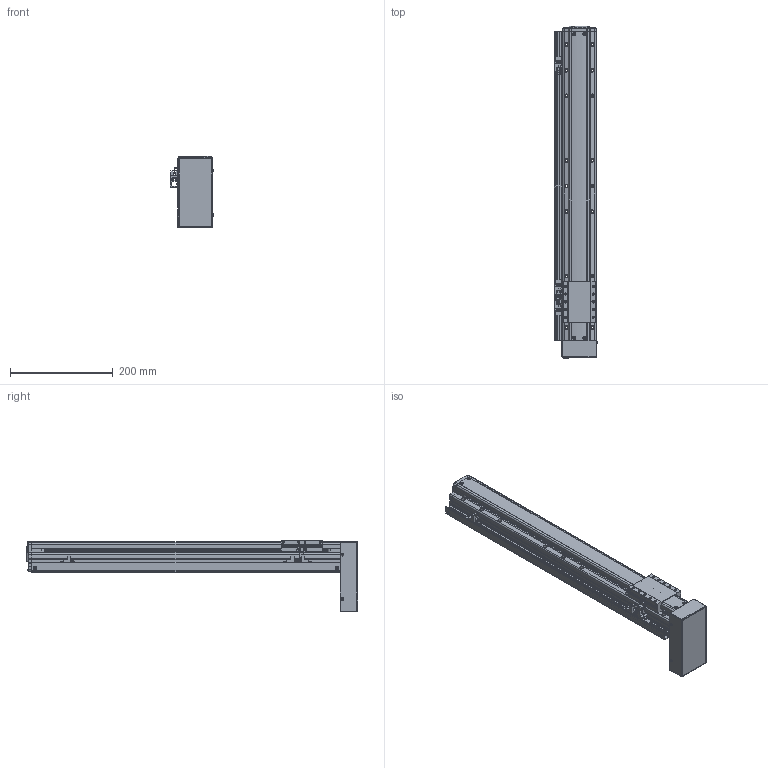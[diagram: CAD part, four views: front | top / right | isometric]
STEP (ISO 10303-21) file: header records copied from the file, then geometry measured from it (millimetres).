
FILE_DESCRIPTION(('STEP AP214'),'1');
FILE_NAME('Z:/Web/3D/PSA65/STP/PSA65-450 (3D)/PSA65ㅁㅁ-450PB+3SL.stp','2014-06-25T04:59:36',(' '),(' '),'Spatial InterOp 3D',' ',' ');
FILE_SCHEMA(('automotive_design'));
Length unit declared in the file: millimetre
Products named in the file (67): SLIDE; RRCV-PA060; 1; 2; 3; 4; 5; 6; 7; 8; 9; 10; 11; 12; 13; 14; 15; 16; 17; 18; 19; 20; 21; 22; 23; 24; 25; 26; 27; 28; 29; 30; 31; 스크루 : Round - M3.0 x 8.0; RN8 x 0.75; SHAFT-SAN65; BASE; 스크루 : Round - M3.0 x 6.0; BTCV-SAN65; M3.0 x 6.0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
Bounding box: 84.06 x 644.8 x 139 mm (x, y, z)
Volume: 2249514.6 mm3; surface area: 360958 mm2
Topology: 67 solids, 67 shells, 2248 faces, 5923 edges, 3808 vertices
Faces by surface type: plane 1391, cylinder 581, cone 191, sphere 50, bspline 19, torus 16
Entity records: 89034 total; most frequent: CARTESIAN_POINT 13663, DIRECTION 11926, ORIENTED_EDGE 11610, EDGE_CURVE 5805, LINE 4104, VECTOR 4104, AXIS2_PLACEMENT_3D 3911, VERTEX_POINT 3808
